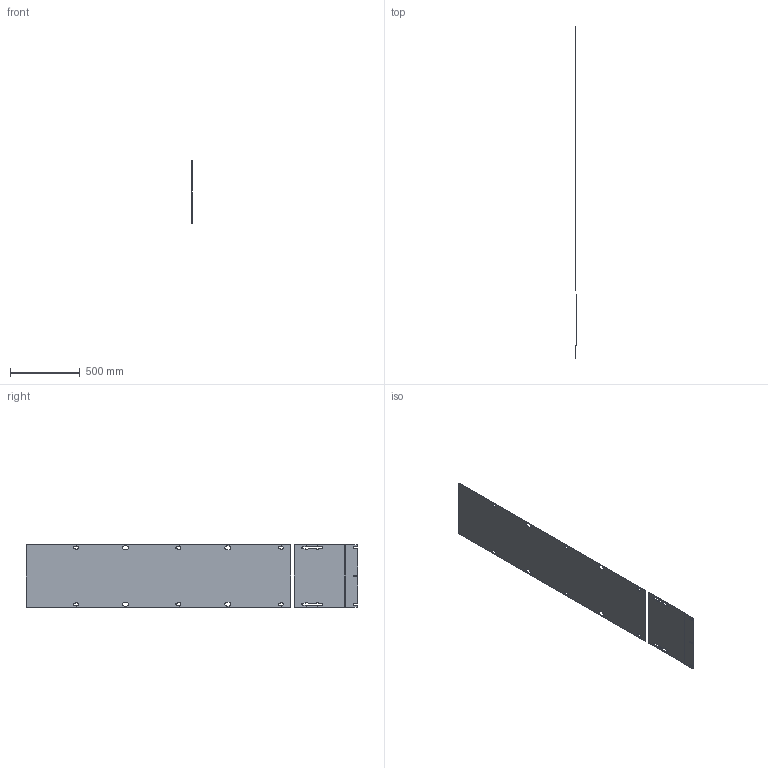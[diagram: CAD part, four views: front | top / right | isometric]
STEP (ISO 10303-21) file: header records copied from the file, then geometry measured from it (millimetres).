
FILE_DESCRIPTION (( 'STEP AP203' ), '1' );
FILE_NAME ('au9018bp.STEP', '2024-09-25T14:17:56', ( '' ), ( '' ), 'SwSTEP 2.0', 'SolidWorks 2020', '' );
FILE_SCHEMA (( 'CONFIG_CONTROL_DESIGN' ));
Length unit declared in the file: inch
Products named in the file (3): 89232861; au9018bp; 89232859
Assembly tree (2 placements, depth 2):
  au9018bp
    89232861
    89232859
Bounding box: 4.37 x 2387.6 x 448.13 mm (x, y, z)
Volume: 1912393 mm3; surface area: 2106819 mm2
Topology: 2 solids, 2 shells, 124 faces, 344 edges, 224 vertices
Faces by surface type: plane 65, cylinder 59
Entity records: 4337 total; most frequent: DIRECTION 720, CARTESIAN_POINT 697, ORIENTED_EDGE 688, EDGE_CURVE 344, AXIS2_PLACEMENT_3D 247, LINE 226, VECTOR 226, VERTEX_POINT 224
